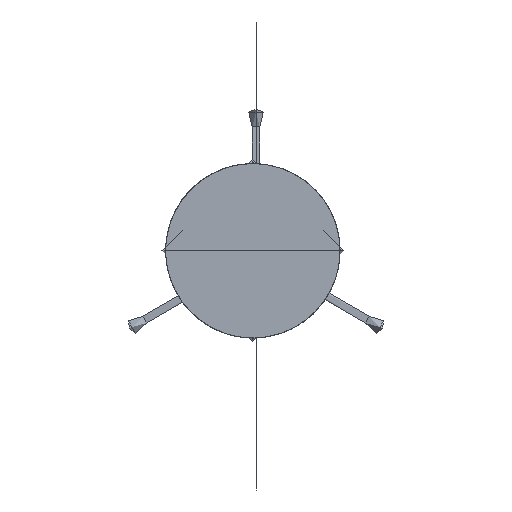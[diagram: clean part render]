
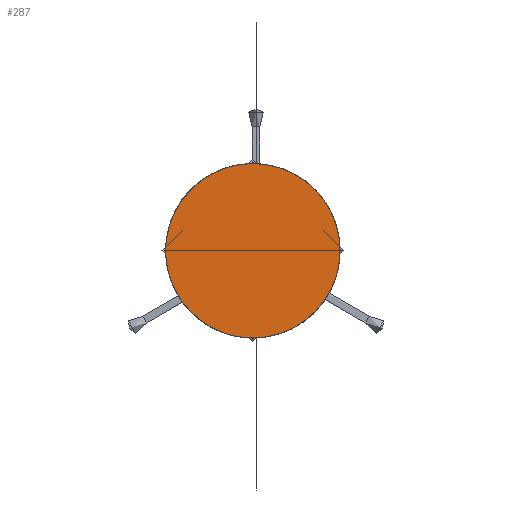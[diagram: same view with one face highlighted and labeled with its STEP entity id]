
A CAD part, top view. The second image highlights one B-rep face of the part: STEP entity #287.
In plain terms, the highlighted planar face has unit normal (0, 0, 1).
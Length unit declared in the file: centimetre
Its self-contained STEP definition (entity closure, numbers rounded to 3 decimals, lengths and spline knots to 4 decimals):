
#287=ADVANCED_FACE('',(#495),#3146,.T.);
#495=FACE_OUTER_BOUND('',#743,.T.);
#743=EDGE_LOOP('',(#1619,#1620));
#1619=ORIENTED_EDGE('',*,*,#2131,.F.);
#1620=ORIENTED_EDGE('',*,*,#2127,.F.);
#2127=EDGE_CURVE('',#2918,#2919,#2605,.T.);
#2131=EDGE_CURVE('',#2919,#2918,#2607,.T.);
#2605=(
BOUNDED_CURVE()
B_SPLINE_CURVE(2,(#7093,#7094,#7095,#7096,#7097),.UNSPECIFIED.,.F.,.F.)
B_SPLINE_CURVE_WITH_KNOTS((3,2,3),(0.,70.8429,141.6858),
 .UNSPECIFIED.)
CURVE()
GEOMETRIC_REPRESENTATION_ITEM()
RATIONAL_B_SPLINE_CURVE((1.,0.707,1.,0.707,1.))
REPRESENTATION_ITEM('')
);
#2607=(
BOUNDED_CURVE()
B_SPLINE_CURVE(2,(#7107,#7108,#7109,#7110,#7111),.UNSPECIFIED.,.F.,.F.)
B_SPLINE_CURVE_WITH_KNOTS((3,2,3),(141.6858,212.5287,283.3717),
 .UNSPECIFIED.)
CURVE()
GEOMETRIC_REPRESENTATION_ITEM()
RATIONAL_B_SPLINE_CURVE((1.,0.707,1.,0.707,1.))
REPRESENTATION_ITEM('')
);
#2918=VERTEX_POINT('',#7085);
#2919=VERTEX_POINT('',#7086);
#3146=PLANE('',#3405);
#3405=AXIS2_PLACEMENT_3D('',#7082,#3591,$);
#3591=DIRECTION('',(0.,0.,1.));
#7082=CARTESIAN_POINT('',(-45.11,458.4086,733.7306));
#7085=CARTESIAN_POINT('',(0.,368.1986,733.7306));
#7086=CARTESIAN_POINT('',(0.,458.3986,733.7306));
#7093=CARTESIAN_POINT('',(0.,368.1986,733.7306));
#7094=CARTESIAN_POINT('',(-45.1,368.1986,733.7306));
#7095=CARTESIAN_POINT('',(-45.1,413.2986,733.7306));
#7096=CARTESIAN_POINT('',(-45.1,458.3986,733.7306));
#7097=CARTESIAN_POINT('',(0.,458.3986,733.7306));
#7107=CARTESIAN_POINT('',(0.,458.3986,733.7306));
#7108=CARTESIAN_POINT('',(45.1,458.3986,733.7306));
#7109=CARTESIAN_POINT('',(45.1,413.2986,733.7306));
#7110=CARTESIAN_POINT('',(45.1,368.1986,733.7306));
#7111=CARTESIAN_POINT('',(0.,368.1986,733.7306));
